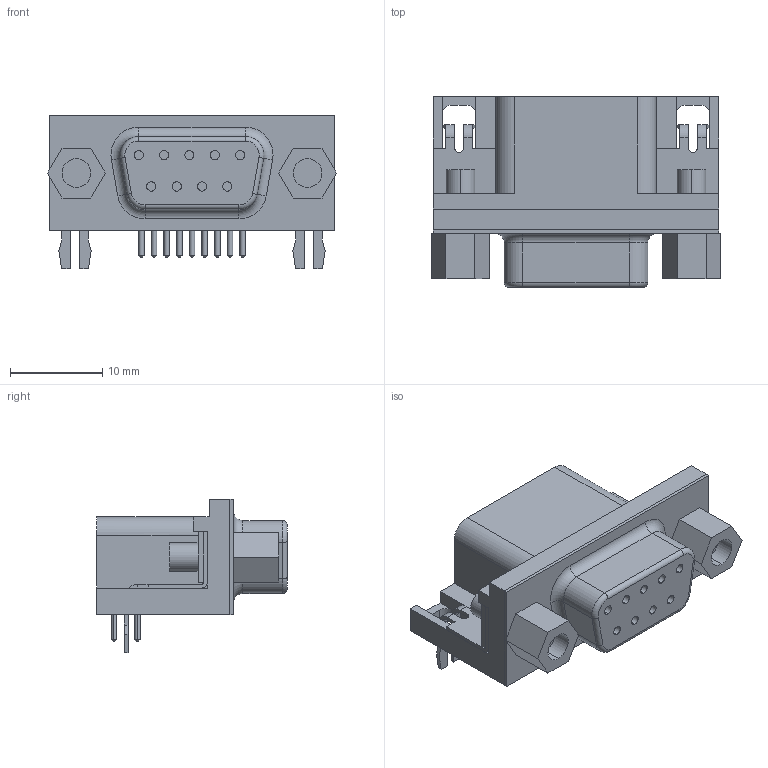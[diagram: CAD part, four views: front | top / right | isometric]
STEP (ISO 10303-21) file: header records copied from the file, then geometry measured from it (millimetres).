
FILE_DESCRIPTION (( 'STEP AP214' ), '1' );
FILE_NAME ('DSDEFAU0516163527294.step', '2006-05-16T20:03:58', ( 'sysAdmin' ), ( 'SolidWorks' ), 'SwSTEP 2.0', 'SolidWorks 2006079', '' );
FILE_SCHEMA (( 'AUTOMOTIVE_DESIGN' ));
Length unit declared in the file: inch
Products named in the file (11): DSDEFAU0516163527294; SW3dPS-dsub_dsub-Part-10; SW3dPS-dsub_dsub-Part-5; SW3dPS-dsub_dsub-Part-3; SW3dPS-dsub_dsub-Part-1; SW3dPS-dsub_dsub-Part-8; SW3dPS-dsub_dsub-Part-9; SW3dPS-dsub_dsub-Part-6; SW3dPS-dsub_dsub-Part-7; SW3dPS-dsub_dsub-Part-2; SW3dPS-dsub_dsub-Part-4
Assembly tree (10 placements, depth 2):
  DSDEFAU0516163527294
    SW3dPS-dsub_dsub-Part-6
    SW3dPS-dsub_dsub-Part-4
    SW3dPS-dsub_dsub-Part-7
    SW3dPS-dsub_dsub-Part-1
    SW3dPS-dsub_dsub-Part-9
    SW3dPS-dsub_dsub-Part-10
    SW3dPS-dsub_dsub-Part-2
    SW3dPS-dsub_dsub-Part-5
    SW3dPS-dsub_dsub-Part-8
    SW3dPS-dsub_dsub-Part-3
Bounding box: 31.24 x 20.6 x 16.6 mm (x, y, z)
Volume: 4407.3 mm3; surface area: 4353.6 mm2
Topology: 10 solids, 10 shells, 273 faces, 664 edges, 426 vertices
Faces by surface type: plane 149, cylinder 98, cone 18, torus 8
Entity records: 8788 total; most frequent: DIRECTION 1460, CARTESIAN_POINT 1376, ORIENTED_EDGE 1328, EDGE_CURVE 664, AXIS2_PLACEMENT_3D 510, VECTOR 440, LINE 440, VERTEX_POINT 426
